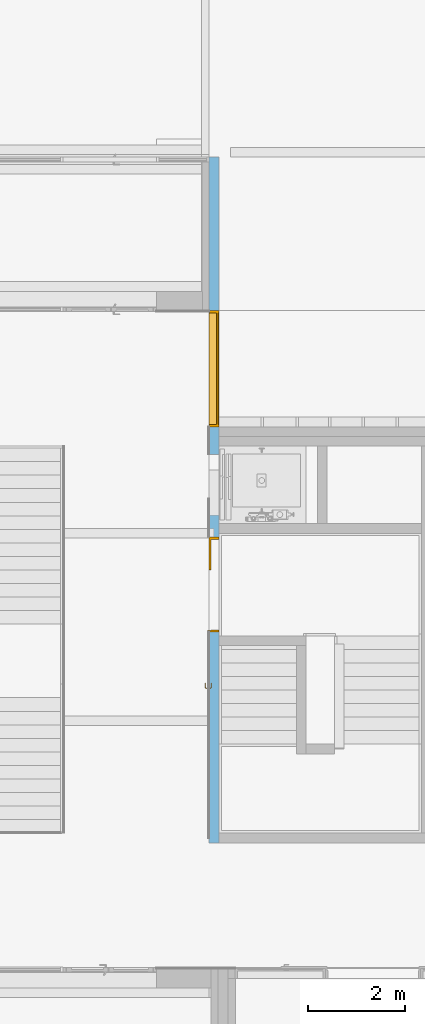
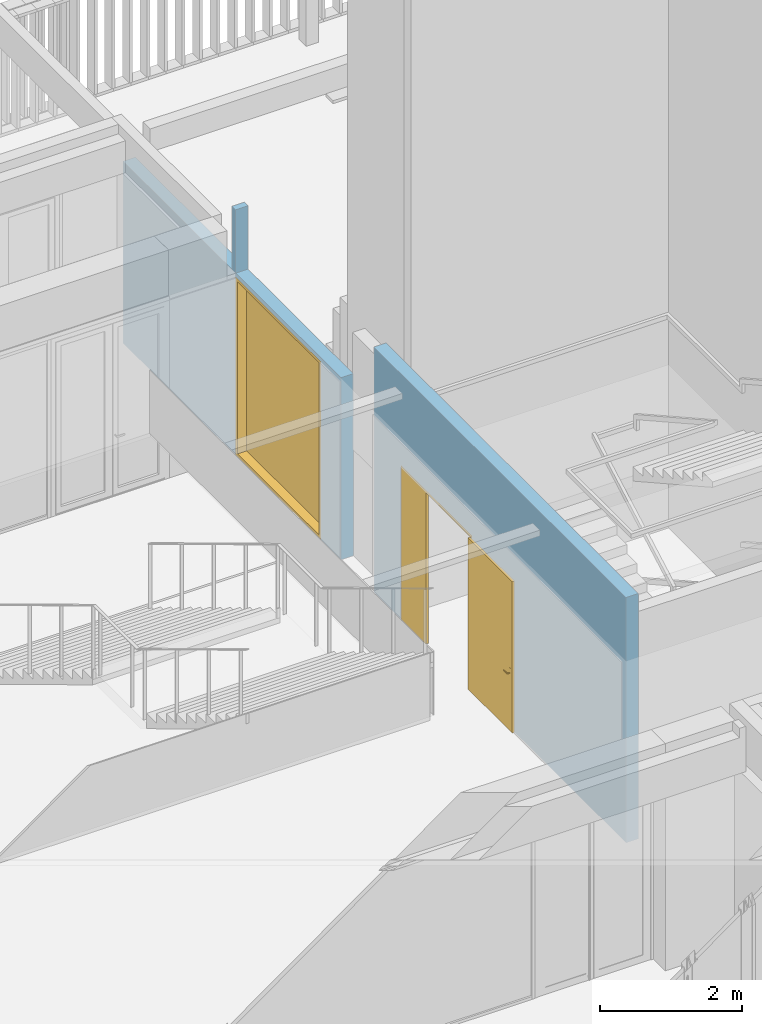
# One storey, part 221 of 240: 1 door, 1 window, 3 openings, plus 2 elements that do not belong to this part.
"""IFC2X3 building model written with IfcOpenShell, lengths in centimetres."""

from ifc_helpers import new_model, entity, si_unit, converted_unit, derived_unit, direction, frame, frame_2d, origin, place, context, subcontext, project, spatial, polyline, rectangle, extrude, clip, bounded_halfspace, faceted_brep, source, transform, mapped, material, material_list, layer, layer_set, layer_usage, type_object, type_shapes, element, fill, save


model = new_model("IFC2X3")

# Units and contexts
model_context = context("Model", 3, precision=0.001, world=origin(), true_north=direction((6.12303176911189e-17, 1.0)))
body_context = subcontext(model_context, "Body", "Model", "MODEL_VIEW")
ifc_project = project(units=[si_unit("LENGTHUNIT", "METRE", prefix="CENTI"), si_unit("AREAUNIT", "SQUARE_METRE"), si_unit("VOLUMEUNIT", "CUBIC_METRE"), converted_unit("PLANEANGLEUNIT", "DEGREE", entity("IfcRatioMeasure", 0.0174532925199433), si_unit("PLANEANGLEUNIT", "RADIAN"), dimensions=[0, 0, 0, 0, 0, 0, 0]), si_unit("MASSUNIT", "GRAM", prefix="KILO"), derived_unit("MASSDENSITYUNIT", [(si_unit("MASSUNIT", "GRAM", prefix="KILO"), 1), (si_unit("LENGTHUNIT", "METRE"), -3)]), si_unit("TIMEUNIT", "SECOND"), si_unit("FREQUENCYUNIT", "HERTZ"), si_unit("THERMODYNAMICTEMPERATUREUNIT", "DEGREE_CELSIUS"), derived_unit("THERMALTRANSMITTANCEUNIT", [(si_unit("MASSUNIT", "GRAM", prefix="KILO"), 1), (si_unit("THERMODYNAMICTEMPERATUREUNIT", "KELVIN"), -1), (si_unit("TIMEUNIT", "SECOND"), -3)]), derived_unit("VOLUMETRICFLOWRATEUNIT", [(si_unit("LENGTHUNIT", "METRE"), 3), (si_unit("TIMEUNIT", "SECOND"), -1)]), si_unit("ELECTRICCURRENTUNIT", "AMPERE"), si_unit("ELECTRICVOLTAGEUNIT", "VOLT"), si_unit("POWERUNIT", "WATT"), si_unit("FORCEUNIT", "NEWTON", prefix="KILO"), si_unit("ILLUMINANCEUNIT", "LUX"), si_unit("LUMINOUSFLUXUNIT", "LUMEN"), si_unit("LUMINOUSINTENSITYUNIT", "CANDELA"), derived_unit("USERDEFINED", [(si_unit("MASSUNIT", "GRAM", prefix="KILO"), -1), (si_unit("LENGTHUNIT", "METRE"), -2), (si_unit("TIMEUNIT", "SECOND"), 3), (si_unit("LUMINOUSFLUXUNIT", "LUMEN"), 1)]), derived_unit("LINEARVELOCITYUNIT", [(si_unit("LENGTHUNIT", "METRE"), 1), (si_unit("TIMEUNIT", "SECOND"), -1)]), si_unit("PRESSUREUNIT", "PASCAL"), derived_unit("USERDEFINED", [(si_unit("LENGTHUNIT", "METRE"), -2), (si_unit("MASSUNIT", "GRAM", prefix="KILO"), 1), (si_unit("TIMEUNIT", "SECOND"), -2)])], contexts=[model_context])

# Site, building, storey
site_placement = place(None, frame((-2781.94577612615, 7442.24238424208, 0.0)))
site = spatial("IfcSite", under=ifc_project, at=site_placement, Name="Default", CompositionType="ELEMENT")
building_placement = place(site_placement, origin())
building = spatial("IfcBuilding", under=site, at=building_placement, CompositionType="ELEMENT")
storey_placement = place(building_placement, origin())
storey = spatial("IfcBuildingStorey", under=building, at=storey_placement, Name="N00 - COO", CompositionType="ELEMENT", Elevation=0.0)

# Wall, openings, window
ifc_material_1 = material(Name="01 - Maçonnerie")
ifc_layer = layer(ifc_material_1, 20.0)
ifc_layer_set = layer_set([ifc_layer], Name="Mur de base:04 - Structure - béton - 20cm")
ifc_layer_usage_1 = layer_usage(ifc_layer_set, "AXIS2", "NEGATIVE", 10.0)
wall_type = type_object("IfcWallType", Name="Mur de base:04 - Structure - béton - 20cm", PredefinedType="STANDARD", material=ifc_layer_set)
wall_1_placement = place(building_placement, frame((-3657.99987968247, -512.548500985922, 0.0), z_axis=(0.0, 0.0, 1.0), x_axis=(0.0, -1.0, 0.0)))
wall_1 = element("IfcWallStandardCase", 1, at=wall_1_placement, inside=storey, type_object=wall_type, material=ifc_layer_usage_1, Name="Mur de base:04 - Structure - béton - 20cm", ObjectType="Mur de base:04 - Structure - béton - 20cm", context=body_context, shape_type="Clipping", body=[
    clip(clip(clip(clip(extrude(rectangle(XDim=614.358269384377, YDim=19.9999999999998, at=frame_2d((307.179134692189, 3.5527136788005e-15), x_axis=(-1.0, 0.0))), origin(), (0.0, 0.0, 1.0), 422.0), bounded_halfspace(frame((0.0, -10.0, 313.0), z_axis=(0.0, 0.0, -1.0), x_axis=(0.0, 1.0, 0.0)), True, frame((0.0, -10.0, 313.0)), polyline([(0.0, 0.0), (10.0, 0.0), (307.499999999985, 0.0), (307.499999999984, 20.0), (0.0, 20.0), (0.0, 0.0)]))), bounded_halfspace(frame((307.499999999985, -10.0, 422.0), z_axis=(0.0, 0.0, 1.0), x_axis=(0.0, 1.0, 0.0)), False, frame((307.499999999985, -10.0, 422.0)), polyline([(0.0, 0.0), (10.0, 0.0), (10.0, 20.0), (0.0, 20.0), (0.0, 0.0)]))), bounded_halfspace(frame((614.358269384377, -10.0, 313.0), z_axis=(0.0, 0.0, 1.0), x_axis=(0.0, 1.0, 0.0)), False, frame((614.358269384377, -10.0, 313.0)), polyline([(0.0, 0.0), (0.0, 20.0), (-0.899999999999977, 20.0), (-296.858269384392, 20.0), (-296.858269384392, 0.0), (-0.899999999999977, 0.0), (0.0, 0.0)]))), bounded_halfspace(frame((0.0, -10.0, 313.0), z_axis=(0.0, 0.0, -1.0), x_axis=(0.0, 1.0, 0.0)), True, frame((0.0, -10.0, 313.0)), polyline([(0.0, 0.0), (10.0, 0.0), (307.499999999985, 0.0), (307.499999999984, 20.0), (0.0, 20.0), (0.0, 0.0)]))),
])
opening_1_placement = place(wall_1_placement, origin())
element("IfcOpeningElement", 2, at=opening_1_placement, cuts=wall_1, Name="Mur de base:04 - Structure - béton - 20cm", ObjectType="Opening", context=body_context, shape_type="SweptSolid", body=[
    extrude(rectangle(XDim=270.0, YDim=239.951498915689, at=frame_2d((0.0, 4.2632564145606e-14), x_axis=(0.0, 1.0))), frame((437.47574945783, -142.4, 557.0), z_axis=(0.0, 1.0, 0.0), x_axis=(-1.0, 0.0, 0.0)), (0.0, 0.0, 1.0), 304.8),
])
opening_2_placement = place(wall_1_placement, frame((557.451498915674, 10.0, 0.0)))
opening_2 = element("IfcOpeningElement", 3, at=opening_2_placement, cuts=wall_1, Name="châssis intérieur vitré:RDC - Pignon -  châssis intérieur vitré (3.11m):1", ObjectType="Opening", context=body_context, shape_type="SweptSolid", body=[
    extrude(rectangle(XDim=306.0, YDim=239.951498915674, at=frame_2d((153.0, 119.975749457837), x_axis=(1.0, 0.0))), frame((0.0, 0.0, 0.0), z_axis=(0.0, -1.0, 0.0), x_axis=(0.0, 0.0, 1.0)), (0.0, 0.0, 1.0), 20.0),
])
ifc_material_2 = material(Name="Verre")
ifc_material_3 = material(Name="huisserie bois")
ifc_material_list_1 = material_list([ifc_material_2, ifc_material_3])
ifc_material_list_2 = material_list([ifc_material_2, ifc_material_3])
window_style = type_object("IfcWindowStyle", Name="RDC - Pignon -  châssis intérieur vitré (3.11m)", ConstructionType="NOTDEFINED", OperationType="NOTDEFINED", ParameterTakesPrecedence=False, Sizeable=False, material=ifc_material_list_2)
shared_shape_1 = source(origin(), body_context, "Body", "Brep", [
    faceted_brep([(236.951498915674, 5.0, 303.0), (236.951498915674, 5.0, 3.0), (3.0, 5.0, 3.0), (3.0, 5.0, 303.0), (236.951498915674, 2.0, 303.0), (236.951498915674, 2.0, 3.0), (3.0, 2.0, 3.0), (3.0, 2.0, 303.0)], [[[0, 1, 2, 3]], [[1, 0, 4, 5]], [[2, 1, 5, 6]], [[3, 2, 6, 7]], [[4, 7, 6, 5]], [[0, 3, 7, 4]]]),
    faceted_brep([(236.951498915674, 2.0, 303.0), (236.951498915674, 0.0, 303.0), (236.951498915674, 0.0, 3.0), (236.951498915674, 2.0, 3.0), (234.951498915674, 0.0, 5.0), (5.0, 0.0, 5.0), (5.0, 0.0, 301.0), (234.951498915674, 0.0, 301.0), (3.0, 0.0, 303.0), (3.0, 0.0, 3.0), (3.0, 2.0, 3.0), (3.0, 2.0, 303.0), (234.951498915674, 2.0, 301.0), (5.0, 2.0, 301.0), (5.0, 2.0, 5.0), (234.951498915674, 2.0, 5.0)], [[[0, 1, 2, 3]], [[4, 5, 6, 7], [1, 8, 9, 2]], [[3, 2, 9, 10]], [[3, 10, 11, 0], [12, 13, 14, 15]], [[7, 12, 15, 4]], [[4, 15, 14, 5]], [[10, 9, 8, 11]], [[5, 14, 13, 6]], [[11, 8, 1, 0]], [[6, 13, 12, 7]]], outer=[[True], [False, True], [True], [True, False], [True], [True], [True], [True], [True], [True]]),
    faceted_brep([(234.951498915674, 5.0, 301.0), (234.951498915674, 20.0, 301.0), (234.951498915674, 20.0, 5.0), (234.951498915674, 5.0, 5.0), (239.951498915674, 20.0, 0.0), (0.0, 20.0, 0.0), (0.0, 20.0, 306.0), (239.951498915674, 20.0, 306.0), (5.0, 20.0, 301.0), (5.0, 20.0, 5.0), (5.0, 5.0, 5.0), (5.0, 5.0, 301.0), (236.951498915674, 5.0, 303.0), (3.0, 5.0, 303.0), (3.0, 5.0, 3.0), (236.951498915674, 5.0, 3.0), (236.951498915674, 0.0, 303.0), (236.951498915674, 0.0, 3.0), (3.0, 0.0, 3.0), (3.0, 0.0, 303.0), (239.951498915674, 0.0, 306.0), (0.0, 0.0, 306.0), (0.0, 0.0, 0.0), (239.951498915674, 0.0, 0.0)], [[[0, 1, 2, 3]], [[4, 5, 6, 7], [1, 8, 9, 2]], [[3, 2, 9, 10]], [[3, 10, 11, 0], [12, 13, 14, 15]], [[16, 12, 15, 17]], [[17, 15, 14, 18]], [[17, 18, 19, 16], [20, 21, 22, 23]], [[7, 20, 23, 4]], [[4, 23, 22, 5]], [[10, 9, 8, 11]], [[18, 14, 13, 19]], [[5, 22, 21, 6]], [[11, 8, 1, 0]], [[19, 13, 12, 16]], [[6, 21, 20, 7]]], outer=[[True], [True, False], [True], [False, True], [True], [True], [False, True], [True], [True], [True], [True], [True], [True], [True], [True]]),
])
type_shapes(window_style, [shared_shape_1])
window_placement = place(opening_2_placement, frame((9.84041435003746e-08, 0.0, 0.0), z_axis=(0.0, 0.0, 1.0), x_axis=(-1.0, 0.0, 0.0)))
window = element("IfcWindow", 4, at=window_placement, inside=storey, type_object=window_style, material=ifc_material_list_1, Name="châssis intérieur vitré:RDC - Pignon -  châssis intérieur vitré (3.11m)", ObjectType="châssis intérieur vitré:RDC - Pignon -  châssis intérieur vitré (3.11m)", OverallHeight=306.0, OverallWidth=239.951498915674, context=body_context, shape_type="MappedRepresentation", body=[
    mapped(shared_shape_1, transform((0.0, 0.0, 0.0), scale=1.0)),
])
fill(opening_2, window)

# Wall, opening, door
ifc_layer_usage_2 = layer_usage(ifc_layer_set, "AXIS2", "NEGATIVE", 10.0)
wall_2_placement = place(building_placement, frame((-3657.99987968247, -1930.07903364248, 0.0), z_axis=(0.0, 0.0, 1.0), x_axis=(0.0, 1.0, 0.0)))
wall_2 = element("IfcWallStandardCase", 5, at=wall_2_placement, inside=storey, type_object=wall_type, material=ifc_layer_usage_2, Name="Mur de base:04 - Structure - béton - 20cm", ObjectType="Mur de base:04 - Structure - béton - 20cm", context=body_context, shape_type="SweptSolid", body=[
    extrude(rectangle(XDim=710.97226327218, YDim=19.9999999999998, at=frame_2d((355.48613163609, 6.21724893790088e-15), x_axis=(-1.0, 0.0))), origin(), (0.0, 0.0, 1.0), 422.0),
])
opening_3_placement = place(wall_2_placement, frame((435.500000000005, -10.0, 0.0)))
opening_3 = element("IfcOpeningElement", 6, at=opening_3_placement, cuts=wall_2, Name="Int. Tierce:PP (1.90m x 2.60m):1", ObjectType="Opening", context=body_context, shape_type="SweptSolid", body=[
    extrude(rectangle(XDim=263.500000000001, YDim=197.0, at=frame_2d((131.750000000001, 98.4999999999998), x_axis=(1.0, 0.0))), frame((0.0, 0.0, 0.0), z_axis=(0.0, 1.0, 0.0), x_axis=(0.0, 0.0, 1.0)), (0.0, 0.0, 1.0), 20.0),
])
ifc_material_4 = material(Name="Finition Peinture - Blanc satiné")
ifc_material_5 = material(Name="Bois - Panneau de porte")
ifc_material_6 = material(Name="Bois - Cadre de porte")
ifc_material_list_3 = material_list([ifc_material_4, ifc_material_5, ifc_material_6])
ifc_material_list_4 = material_list([ifc_material_4, ifc_material_5, ifc_material_6])
door_style = type_object("IfcDoorStyle", Name="PP (1.90m x 2.60m)", ConstructionType="NOTDEFINED", OperationType="DOUBLE_DOOR_SINGLE_SWING", ParameterTakesPrecedence=False, Sizeable=False, material=ifc_material_list_4)
shared_shape_2 = source(origin(), body_context, "Body", "Brep", [
    faceted_brep([(318.464723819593, 0.499999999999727, 86.6003983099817), (317.500000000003, 0.499999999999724, 87.0), (317.500000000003, 0.499999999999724, 108.0), (318.464723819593, 0.499999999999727, 108.399601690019), (319.500000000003, 0.499999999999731, 108.535898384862), (320.535276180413, 0.499999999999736, 108.399601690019), (321.500000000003, 0.499999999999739, 108.0), (321.500000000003, 0.499999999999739, 87.0), (320.535276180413, 0.499999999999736, 86.6003983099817), (319.500000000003, 0.499999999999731, 86.464101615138), (318.464723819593, 0.0, 108.399601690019), (317.500000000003, 0.0, 108.0), (317.500000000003, 0.0, 87.0), (318.464723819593, 0.0, 86.6003983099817), (319.500000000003, 0.0, 86.464101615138), (320.535276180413, 0.0, 86.6003983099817), (321.500000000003, 0.0, 87.0), (321.500000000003, 0.0, 108.0), (320.535276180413, 0.0, 108.399601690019), (319.500000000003, 0.0, 108.535898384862)], [[[0, 1, 2, 3, 4, 5, 6, 7, 8, 9]], [[10, 11, 12, 13, 14, 15, 16, 17, 18, 19]], [[16, 15, 8, 7]], [[8, 15, 14, 9]], [[14, 13, 0, 9]], [[13, 12, 1, 0]], [[2, 1, 12, 11]], [[11, 10, 3, 2]], [[3, 10, 19, 4]], [[19, 18, 5, 4]], [[18, 17, 6, 5]], [[7, 6, 17, 16]]]),
    faceted_brep([(318.464723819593, -4.0, 86.6003983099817), (317.500000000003, -4.0, 87.0), (317.500000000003, -4.0, 108.0), (318.464723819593, -4.0, 108.399601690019), (319.500000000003, -4.0, 108.535898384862), (320.535276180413, -4.0, 108.399601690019), (321.500000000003, -4.0, 108.0), (321.500000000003, -4.0, 87.0), (320.535276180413, -4.0, 86.6003983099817), (319.500000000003, -4.0, 86.464101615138), (318.464723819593, -4.50000000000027, 108.399601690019), (317.500000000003, -4.50000000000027, 108.0), (317.500000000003, -4.50000000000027, 87.0), (318.464723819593, -4.50000000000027, 86.6003983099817), (319.500000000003, -4.50000000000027, 86.464101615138), (320.535276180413, -4.50000000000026, 86.6003983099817), (321.500000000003, -4.50000000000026, 87.0), (321.500000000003, -4.50000000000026, 108.0), (320.535276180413, -4.50000000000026, 108.399601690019), (319.500000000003, -4.50000000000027, 108.535898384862)], [[[0, 1, 2, 3, 4, 5, 6, 7, 8, 9]], [[10, 11, 12, 13, 14, 15, 16, 17, 18, 19]], [[11, 10, 3, 2]], [[3, 10, 19, 4]], [[19, 18, 5, 4]], [[18, 17, 6, 5]], [[7, 6, 17, 16]], [[16, 15, 8, 7]], [[8, 15, 14, 9]], [[14, 13, 0, 9]], [[13, 12, 1, 0]], [[2, 1, 12, 11]]]),
    faceted_brep([(319.702529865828, 0.499999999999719, 100.778044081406), (319.297470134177, 0.499999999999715, 100.778044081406), (318.9, 0.499999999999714, 100.699999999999), (318.900000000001, 0.499999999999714, 99.3000000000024), (319.297470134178, 0.499999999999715, 99.2219559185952), (319.702529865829, 0.499999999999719, 99.221955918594), (320.100000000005, 0.499999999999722, 99.2999999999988), (320.100000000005, 0.499999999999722, 100.7), (320.100000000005, 3.26509507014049, 100.7), (319.702529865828, 3.10045754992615, 100.778044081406), (318.097641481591, 4.70534593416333, 100.778044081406), (317.92986024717, 4.30028620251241, 100.778044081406), (319.297470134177, 2.93267631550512, 100.778044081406), (318.9, 2.76803879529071, 100.7), (318.9, 2.7680387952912, 99.3000000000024), (319.297470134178, 2.93267631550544, 99.2219559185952), (317.92986024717, 4.3002862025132, 99.2219559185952), (318.097641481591, 4.70534593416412, 99.221955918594), (319.702529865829, 3.10045754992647, 99.221955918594), (320.100000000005, 3.26509507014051, 99.2999999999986), (318.262279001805, 5.10281606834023, 100.7), (317.765222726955, 3.90281606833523, 100.7), (317.765222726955, 3.90281606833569, 99.3000000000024), (318.262279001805, 5.10281606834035, 99.2999999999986), (309.498135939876, 5.1028160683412, 99.2999999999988), (309.498135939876, 4.70534593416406, 99.221955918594), (309.498135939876, 4.30028620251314, 99.2219559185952), (309.498135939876, 3.90281606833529, 99.3000000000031), (309.498135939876, 3.90281606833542, 100.7), (309.498135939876, 4.30028620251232, 100.778044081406), (309.498135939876, 4.70534593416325, 100.778044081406), (309.498135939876, 5.10281606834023, 100.699999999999), (314.269230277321, 5.10281606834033, 100.7), (313.713998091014, 4.50281606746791, 100.78786867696), (313.631679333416, 3.90281606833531, 100.7), (313.631679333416, 3.9028160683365, 99.3000000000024), (313.713998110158, 4.50281607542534, 99.2121313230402), (314.269229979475, 5.10281606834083, 99.2999999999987)], [[[0, 1, 2, 3, 4, 5, 6, 7]], [[8, 9, 0, 7]], [[9, 10, 11, 12, 1, 0]], [[12, 13, 2, 1]], [[3, 2, 13, 14]], [[14, 15, 4, 3]], [[15, 16, 17, 18, 5, 4]], [[18, 19, 6, 5]], [[7, 6, 19, 8]], [[20, 10, 9, 8]], [[11, 21, 13, 12]], [[14, 13, 21, 22]], [[22, 16, 15, 14]], [[17, 23, 19, 18]], [[8, 19, 23, 20]], [[24, 25, 26, 27, 28, 29, 30, 31]], [[32, 30, 33]], [[31, 30, 32]], [[10, 20, 32]], [[33, 34, 11]], [[21, 11, 34]], [[34, 29, 28]], [[30, 29, 33]], [[29, 34, 33]], [[10, 32, 33]], [[10, 33, 11]], [[22, 21, 34, 28, 27, 35]], [[35, 26, 36]], [[37, 36, 25]], [[22, 35, 16]], [[35, 27, 26]], [[24, 37, 25]], [[23, 17, 37]], [[37, 17, 36]], [[17, 16, 36]], [[16, 35, 36]], [[25, 36, 26]], [[20, 23, 37, 24, 31, 32]]]),
    faceted_brep([(319.702529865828, -4.50000000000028, 100.778044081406), (320.100000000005, -4.50000000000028, 100.7), (320.100000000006, -4.50000000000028, 99.2999999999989), (319.702529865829, -4.50000000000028, 99.221955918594), (319.297470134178, -4.50000000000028, 99.2219559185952), (318.9, -4.50000000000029, 99.3000000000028), (318.9, -4.50000000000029, 100.7), (319.297470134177, -4.50000000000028, 100.778044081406), (318.9, -6.74852045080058, 99.3000000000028), (318.9, -6.74852045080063, 100.7), (319.297470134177, -6.91315797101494, 100.778044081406), (317.916109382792, -8.29451872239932, 100.778044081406), (318.083890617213, -8.69957845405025, 100.778044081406), (319.702529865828, -7.08093920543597, 100.778044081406), (320.100000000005, -7.24557672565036, 100.7), (320.100000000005, -7.24557672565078, 99.2999999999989), (319.702529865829, -7.08093920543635, 99.221955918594), (318.083890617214, -8.69957845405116, 99.221955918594), (317.916109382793, -8.29451872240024, 99.2219559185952), (319.297470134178, -6.91315797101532, 99.2219559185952), (317.751471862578, -7.89704858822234, 99.3000000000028), (317.751471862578, -7.89704858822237, 100.7), (318.248528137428, -9.09704858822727, 100.7), (318.248528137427, -9.09704858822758, 99.2999999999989), (309.495421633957, -7.89704858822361, 99.3000000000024), (309.495421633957, -8.29451872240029, 99.2219559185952), (309.495421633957, -8.69957845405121, 99.221955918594), (309.495421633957, -9.09704858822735, 99.2999999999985), (309.495421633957, -9.09704858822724, 100.7), (309.495421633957, -8.69957845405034, 100.778044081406), (309.495421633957, -8.29451872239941, 100.778044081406), (309.495421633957, -7.89704858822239, 100.7), (313.623447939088, -7.89704858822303, 99.3000000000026), (313.623446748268, -7.89704858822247, 100.7), (313.70576551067, -8.49704858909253, 100.78786867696), (314.255479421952, -9.09704858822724, 100.7), (314.255479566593, -9.09704858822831, 99.2999999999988), (313.705765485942, -8.49704858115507, 99.2121313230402)], [[[0, 1, 2, 3, 4, 5, 6, 7]], [[6, 5, 8, 9]], [[9, 10, 7, 6]], [[10, 11, 12, 13, 0, 7]], [[13, 14, 1, 0]], [[2, 1, 14, 15]], [[15, 16, 3, 2]], [[16, 17, 18, 19, 4, 3]], [[19, 8, 5, 4]], [[9, 8, 20, 21]], [[21, 11, 10, 9]], [[12, 22, 14, 13]], [[15, 14, 22, 23]], [[23, 17, 16, 15]], [[18, 20, 8, 19]], [[24, 25, 26, 27, 28, 29, 30, 31]], [[21, 20, 32, 24, 31, 33]], [[33, 30, 34]], [[35, 34, 29]], [[21, 33, 11]], [[33, 31, 30]], [[28, 35, 29]], [[22, 12, 35]], [[35, 12, 34]], [[12, 11, 34]], [[11, 33, 34]], [[29, 34, 30]], [[22, 35, 28, 27, 36, 23]], [[36, 26, 37]], [[27, 26, 36]], [[17, 23, 36]], [[37, 32, 18]], [[20, 18, 32]], [[32, 25, 24]], [[26, 25, 37]], [[25, 32, 37]], [[17, 36, 37]], [[17, 37, 18]]]),
    faceted_brep([(325.500000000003, -4.0, 260.0), (200.500000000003, -4.0, 260.0), (200.500000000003, -4.0, 0.0), (325.500000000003, -4.0, 0.0), (325.500000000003, 0.0, 260.0), (325.500000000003, 0.0, 0.0), (200.500000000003, 0.0, 0.0), (200.500000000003, 0.0, 260.0)], [[[0, 1, 2, 3]], [[4, 5, 6, 7]], [[1, 0, 4, 7]], [[2, 1, 7, 6]], [[3, 2, 6, 5]], [[0, 3, 5, 4]]]),
    faceted_brep([(204.0, 0.0, 0.0), (200.500000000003, 0.0, 0.0), (200.500000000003, 4.0, 0.0), (199.0, 4.0, 0.0), (199.0, 20.0, 0.0), (204.0, 20.0, 0.0), (204.0, 20.0, 263.500000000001), (204.0, 0.0, 263.500000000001), (199.0, 20.0, 258.5), (12.0, 20.0, 258.5), (12.0, 20.0, 0.0), (7.0, 20.0, 0.0), (7.0, 20.0, 263.500000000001), (199.0, 4.0, 258.5), (200.500000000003, 4.0, 260.0), (10.5000000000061, 4.0, 260.0), (10.5000000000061, 4.0, 0.0), (12.0, 4.0, 0.0), (12.0, 4.0, 258.5), (200.500000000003, 0.0, 260.0), (7.0, 0.0, 263.500000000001), (7.0, 0.0, 0.0), (10.5000000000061, 0.0, 0.0), (10.5000000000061, 0.0, 260.0)], [[[0, 1, 2, 3, 4, 5]], [[5, 6, 7, 0]], [[4, 8, 9, 10, 11, 12, 6, 5]], [[3, 13, 8, 4]], [[2, 14, 15, 16, 17, 18, 13, 3]], [[1, 19, 14, 2]], [[0, 7, 20, 21, 22, 23, 19, 1]], [[12, 11, 21, 20]], [[21, 11, 10, 17, 16, 22]], [[18, 17, 10, 9]], [[23, 22, 16, 15]], [[6, 12, 20, 7]], [[13, 18, 9, 8]], [[19, 23, 15, 14]]]),
    faceted_brep([(10.500000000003, 0.0, 260.0), (75.5000000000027, 0.0, 260.0), (75.5000000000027, 4.0, 260.0), (10.500000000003, 4.0, 260.0), (10.500000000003, 0.0, 0.0), (10.500000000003, 4.0, 0.0), (75.5000000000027, 4.0, 0.0), (75.5000000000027, 0.0, 0.0)], [[[0, 1, 2, 3]], [[4, 5, 6, 7]], [[3, 5, 4, 0]], [[2, 6, 5, 3]], [[1, 7, 6, 2]], [[0, 4, 7, 1]]]),
    faceted_brep([(202.500000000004, 20.0, 0.0), (202.500000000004, 20.5000000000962, 0.0), (205.500000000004, 20.5000000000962, 0.0), (205.500000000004, 20.0, 0.0), (205.500000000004, 20.0, 265.0), (5.50000000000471, 20.0, 265.0), (5.50000000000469, 20.0, 0.0), (8.50000000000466, 20.0, 0.0), (8.50000000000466, 20.0, 262.0), (202.500000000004, 20.0, 262.0), (205.500000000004, 20.5000000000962, 265.0), (202.500000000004, 20.5000000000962, 262.0), (8.50000000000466, 20.5000000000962, 262.0), (8.50000000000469, 20.5000000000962, 0.0), (5.50000000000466, 20.5000000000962, 0.0), (5.50000000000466, 20.5000000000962, 265.0)], [[[0, 1, 2, 3]], [[3, 4, 5, 6, 7, 8, 9, 0]], [[2, 10, 4, 3]], [[1, 11, 12, 13, 14, 15, 10, 2]], [[0, 9, 11, 1]], [[7, 6, 14, 13]], [[8, 7, 13, 12]], [[15, 14, 6, 5]], [[9, 8, 12, 11]], [[10, 15, 5, 4]]]),
    faceted_brep([(205.500000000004, -0.500000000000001, 0.0), (205.500000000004, -0.500000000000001, 265.0), (5.50000000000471, -0.500000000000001, 265.0), (5.50000000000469, -0.500000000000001, 0.0), (8.50000000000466, -0.500000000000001, 0.0), (8.50000000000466, -0.500000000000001, 262.0), (202.500000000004, -0.500000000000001, 262.0), (202.500000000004, -0.500000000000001, 0.0), (205.500000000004, 0.0, 0.0), (205.500000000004, 0.0, 265.0), (202.500000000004, 0.0, 0.0), (202.500000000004, 0.0, 262.0), (8.50000000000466, 0.0, 262.0), (8.50000000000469, 0.0, 0.0), (5.50000000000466, 0.0, 0.0), (5.50000000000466, 0.0, 265.0)], [[[0, 1, 2, 3, 4, 5, 6, 7]], [[8, 9, 1, 0]], [[10, 11, 12, 13, 14, 15, 9, 8]], [[7, 6, 11, 10]], [[5, 4, 13, 12]], [[15, 14, 3, 2]], [[6, 5, 12, 11]], [[9, 15, 2, 1]], [[4, 3, 14, 13]], [[7, 10, 8, 0]]]),
])
type_shapes(door_style, [shared_shape_2])
door_placement = place(opening_3_placement, frame((204.0, 20.0, 0.0), z_axis=(0.0, 0.0, 1.0), x_axis=(-1.0, 0.0, 0.0)))
door = element("IfcDoor", 7, at=door_placement, inside=storey, type_object=door_style, material=ifc_material_list_3, Name="Int. Tierce:PP (1.90m x 2.60m)", ObjectType="Int. Tierce:PP (1.90m x 2.60m)", OverallHeight=263.500000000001, OverallWidth=197.0, context=body_context, shape_type="MappedRepresentation", body=[
    mapped(shared_shape_2, transform((0.0, 0.0, 0.0), scale=1.0)),
])
fill(opening_3, door)

save(model, "model.ifc")
